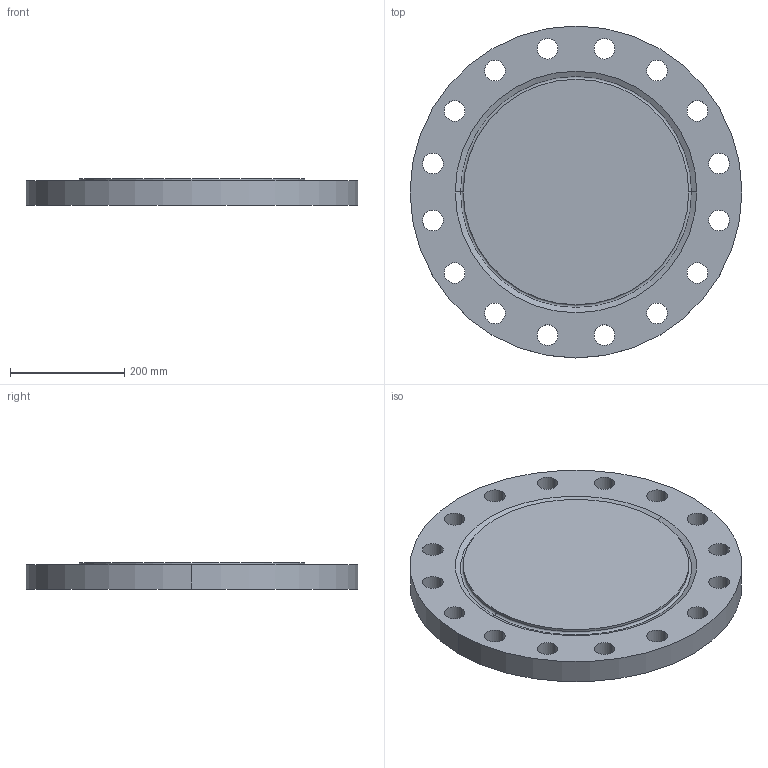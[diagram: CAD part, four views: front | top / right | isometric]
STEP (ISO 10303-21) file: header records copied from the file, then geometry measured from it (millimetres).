
FILE_DESCRIPTION (( 'STEP AP214' ), '1' );
FILE_NAME ('PN40 DN350 Type 05 - Type H Face.STEP', '2019-01-05T21:55:05', ( '' ), ( '' ), 'SwSTEP 2.0', 'SolidWorks 2019', '' );
FILE_SCHEMA (( 'AUTOMOTIVE_DESIGN' ));
Length unit declared in the file: millimetre
Products named in the file (1): PN40 DN350 Type 05 - Type H Face
Bounding box: 580 x 580 x 46 mm (x, y, z)
Volume: 10971510.4 mm3; surface area: 661591.9 mm2
Topology: 1 solids, 1 shells, 43 faces, 116 edges, 76 vertices
Faces by surface type: cylinder 36, plane 3, torus 2, cone 2
Entity records: 1494 total; most frequent: DIRECTION 282, CARTESIAN_POINT 236, ORIENTED_EDGE 232, AXIS2_PLACEMENT_3D 122, EDGE_CURVE 116, CIRCLE 78, VERTEX_POINT 76, EDGE_LOOP 76
